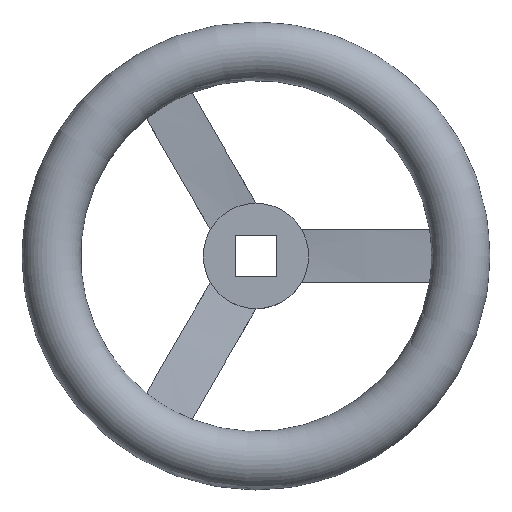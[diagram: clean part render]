
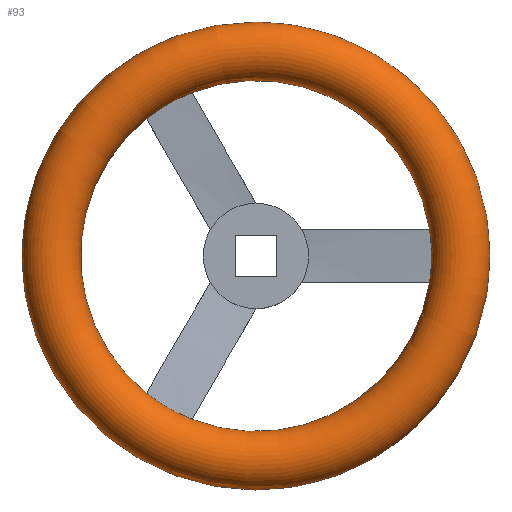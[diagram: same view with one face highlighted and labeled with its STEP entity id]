
A CAD part, top view. The second image highlights one B-rep face of the part: STEP entity #93.
In plain terms, the highlighted toroidal (fillet/blend) face has major radius 70 mm and minor radius 10 mm.
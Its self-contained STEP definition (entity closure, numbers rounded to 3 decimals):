
#93 = ADVANCED_FACE( '', ( #149, #150 ), #151, .T. );
#149 = FACE_OUTER_BOUND( '', #220, .T. );
#150 = FACE_OUTER_BOUND( '', #221, .T. );
#151 = TOROIDAL_SURFACE( '', #222, 70., 10. );
#220 = EDGE_LOOP( '', ( #386 ) );
#221 = EDGE_LOOP( '', ( #387, #388, #389, #390, #391, #392 ) );
#222 = AXIS2_PLACEMENT_3D( '', #393, #394, #395 );
#386 = ORIENTED_EDGE( '', *, *, #510, .T. );
#387 = ORIENTED_EDGE( '', *, *, #491, .F. );
#388 = ORIENTED_EDGE( '', *, *, #464, .F. );
#389 = ORIENTED_EDGE( '', *, *, #507, .F. );
#390 = ORIENTED_EDGE( '', *, *, #511, .F. );
#391 = ORIENTED_EDGE( '', *, *, #504, .F. );
#392 = ORIENTED_EDGE( '', *, *, #509, .F. );
#393 = CARTESIAN_POINT( '', ( 0., 0., 20. ) );
#394 = DIRECTION( '', ( 0., 0., 1. ) );
#395 = DIRECTION( '', ( 1., 0., 0. ) );
#464 = EDGE_CURVE( '', #530, #523, #532, .T. );
#491 = EDGE_CURVE( '', #523, #556, #579, .T. );
#504 = EDGE_CURVE( '', #599, #548, #601, .T. );
#507 = EDGE_CURVE( '', #603, #530, #605, .T. );
#509 = EDGE_CURVE( '', #556, #599, #607, .T. );
#510 = EDGE_CURVE( '', #608, #608, #609, .T. );
#511 = EDGE_CURVE( '', #548, #603, #610, .T. );
#523 = VERTEX_POINT( '', #632 );
#530 = VERTEX_POINT( '', #648 );
#532 = CIRCLE( '', #651, 60. );
#548 = VERTEX_POINT( '', #697 );
#556 = VERTEX_POINT( '', #721 );
#579 = CIRCLE( '', #756, 60. );
#599 = VERTEX_POINT( '', #782 );
#601 = CIRCLE( '', #791, 60. );
#603 = VERTEX_POINT( '', #800 );
#605 = CIRCLE( '', #809, 60. );
#607 = CIRCLE( '', #812, 60. );
#608 = VERTEX_POINT( '', #813 );
#609 = CIRCLE( '', #814, 80. );
#610 = CIRCLE( '', #815, 60. );
#632 = CARTESIAN_POINT( '', ( 59.321, -9., 20. ) );
#648 = CARTESIAN_POINT( '', ( -21.866, -55.874, 20. ) );
#651 = AXIS2_PLACEMENT_3D( '', #838, #839, #840 );
#697 = CARTESIAN_POINT( '', ( -37.455, 46.874, 20. ) );
#721 = CARTESIAN_POINT( '', ( 59.321, 9., 20. ) );
#756 = AXIS2_PLACEMENT_3D( '', #880, #881, #882 );
#782 = CARTESIAN_POINT( '', ( -21.866, 55.874, 20. ) );
#791 = AXIS2_PLACEMENT_3D( '', #904, #905, #906 );
#800 = CARTESIAN_POINT( '', ( -37.455, -46.874, 20. ) );
#809 = AXIS2_PLACEMENT_3D( '', #907, #908, #909 );
#812 = AXIS2_PLACEMENT_3D( '', #911, #912, #913 );
#813 = CARTESIAN_POINT( '', ( 80., 0., 20. ) );
#814 = AXIS2_PLACEMENT_3D( '', #914, #915, #916 );
#815 = AXIS2_PLACEMENT_3D( '', #917, #918, #919 );
#838 = CARTESIAN_POINT( '', ( 0., 0., 20. ) );
#839 = DIRECTION( '', ( 0., 0., 1. ) );
#840 = DIRECTION( '', ( 1., 0., 0. ) );
#880 = CARTESIAN_POINT( '', ( 0., 0., 20. ) );
#881 = DIRECTION( '', ( 0., 0., 1. ) );
#882 = DIRECTION( '', ( 1., 0., 0. ) );
#904 = CARTESIAN_POINT( '', ( 0., 0., 20. ) );
#905 = DIRECTION( '', ( 0., 0., 1. ) );
#906 = DIRECTION( '', ( 1., 0., 0. ) );
#907 = CARTESIAN_POINT( '', ( 0., 0., 20. ) );
#908 = DIRECTION( '', ( 0., 0., 1. ) );
#909 = DIRECTION( '', ( 1., 0., 0. ) );
#911 = CARTESIAN_POINT( '', ( 0., 0., 20. ) );
#912 = DIRECTION( '', ( 0., 0., 1. ) );
#913 = DIRECTION( '', ( 1., 0., 0. ) );
#914 = CARTESIAN_POINT( '', ( 0., 0., 20. ) );
#915 = DIRECTION( '', ( 0., 0., 1. ) );
#916 = DIRECTION( '', ( 1., 0., 0. ) );
#917 = CARTESIAN_POINT( '', ( 0., 0., 20. ) );
#918 = DIRECTION( '', ( 0., 0., 1. ) );
#919 = DIRECTION( '', ( 1., 0., 0. ) );
